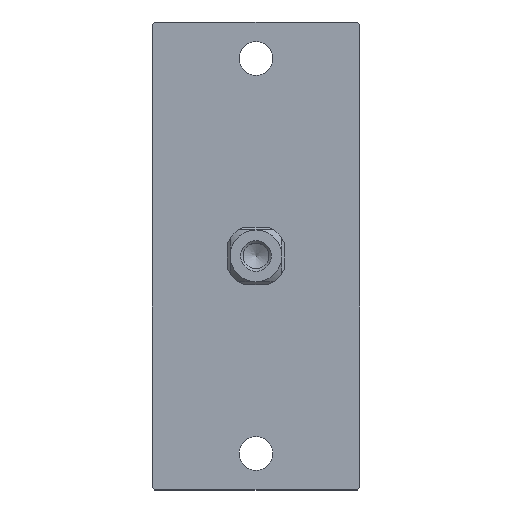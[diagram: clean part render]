
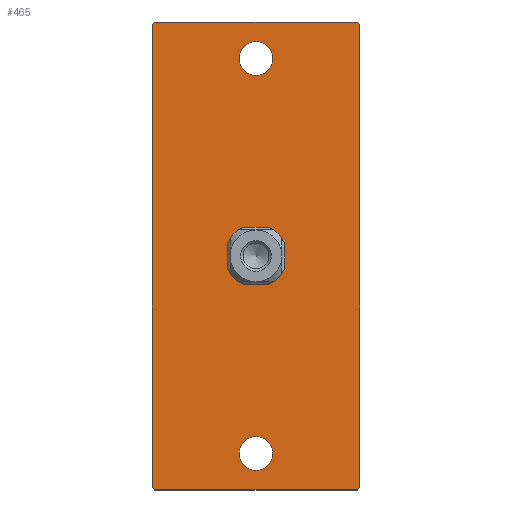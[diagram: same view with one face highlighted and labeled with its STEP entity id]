
A CAD part, top view. The second image highlights one B-rep face of the part: STEP entity #465.
In plain terms, the highlighted planar face has unit normal (0, 0, 1).
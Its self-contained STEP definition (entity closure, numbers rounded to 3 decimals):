
#198=CARTESIAN_POINT('',(-11.483,45.0,16.0));
#199=VERTEX_POINT('',#198);
#206=CARTESIAN_POINT('',(27.517,45.0,16.0));
#207=VERTEX_POINT('',#206);
#208=CARTESIAN_POINT('',(-11.483,45.0,16.0));
#209=DIRECTION('',(1.0,0.0,0.0));
#210=VECTOR('',#209,39.0);
#211=LINE('',#208,#210);
#212=EDGE_CURVE('',#199,#207,#211,.T.);
#245=CARTESIAN_POINT('',(-11.983,44.5,16.0));
#246=VERTEX_POINT('',#245);
#253=CARTESIAN_POINT('',(-11.983,44.5,16.0));
#254=DIRECTION('',(0.707,0.707,0.0));
#255=VECTOR('',#254,0.707);
#256=LINE('',#253,#255);
#257=EDGE_CURVE('',#246,#199,#256,.T.);
#269=CARTESIAN_POINT('',(27.517,-45.0,16.0));
#270=VERTEX_POINT('',#269);
#277=CARTESIAN_POINT('',(-11.483,-45.0,16.0));
#278=VERTEX_POINT('',#277);
#279=CARTESIAN_POINT('',(27.517,-45.0,16.0));
#280=DIRECTION('',(-1.0,0.0,0.0));
#281=VECTOR('',#280,39.0);
#282=LINE('',#279,#281);
#283=EDGE_CURVE('',#270,#278,#282,.T.);
#316=CARTESIAN_POINT('',(28.017,-44.5,16.0));
#317=VERTEX_POINT('',#316);
#324=CARTESIAN_POINT('',(28.017,-44.5,16.0));
#325=DIRECTION('',(-0.707,-0.707,0.0));
#326=VECTOR('',#325,0.707);
#327=LINE('',#324,#326);
#328=EDGE_CURVE('',#317,#270,#327,.T.);
#334=CARTESIAN_POINT('',(8.017,0.,16.0));
#335=DIRECTION('',(0.0,0.0,1.0));
#336=DIRECTION('',(1.0,0.0,0.0));
#337=AXIS2_PLACEMENT_3D('',#334,#335,#336);
#338=PLANE('',#337);
#339=ORIENTED_EDGE('',*,*,#257,.F.);
#340=CARTESIAN_POINT('',(-11.983,-44.5,16.0));
#341=VERTEX_POINT('',#340);
#342=CARTESIAN_POINT('',(-11.983,-44.5,16.0));
#343=DIRECTION('',(0.0,1.0,0.0));
#344=VECTOR('',#343,89.0);
#345=LINE('',#342,#344);
#346=EDGE_CURVE('',#341,#246,#345,.T.);
#347=ORIENTED_EDGE('',*,*,#346,.F.);
#348=CARTESIAN_POINT('',(-11.483,-45.0,16.0));
#349=DIRECTION('',(-0.707,0.707,0.0));
#350=VECTOR('',#349,0.707);
#351=LINE('',#348,#350);
#352=EDGE_CURVE('',#278,#341,#351,.T.);
#353=ORIENTED_EDGE('',*,*,#352,.F.);
#354=ORIENTED_EDGE('',*,*,#283,.F.);
#355=ORIENTED_EDGE('',*,*,#328,.F.);
#356=CARTESIAN_POINT('',(28.017,44.5,16.0));
#357=VERTEX_POINT('',#356);
#358=CARTESIAN_POINT('',(28.017,44.5,16.0));
#359=DIRECTION('',(0.0,-1.0,0.0));
#360=VECTOR('',#359,89.0);
#361=LINE('',#358,#360);
#362=EDGE_CURVE('',#357,#317,#361,.T.);
#363=ORIENTED_EDGE('',*,*,#362,.F.);
#364=CARTESIAN_POINT('',(27.517,45.0,16.0));
#365=DIRECTION('',(0.707,-0.707,0.0));
#366=VECTOR('',#365,0.707);
#367=LINE('',#364,#366);
#368=EDGE_CURVE('',#207,#357,#367,.T.);
#369=ORIENTED_EDGE('',*,*,#368,.F.);
#370=ORIENTED_EDGE('',*,*,#212,.F.);
#371=EDGE_LOOP('',(#339,#347,#353,#354,#355,#363,#369,#370));
#372=FACE_OUTER_BOUND('',#371,.T.);
#373=CARTESIAN_POINT('',(10.415,5.5,16.));
#374=VERTEX_POINT('',#373);
#375=CARTESIAN_POINT('',(13.517,2.398,16.));
#376=VERTEX_POINT('',#375);
#377=CARTESIAN_POINT('',(8.017,0.0,16.0));
#378=DIRECTION('',(0.0,0.0,-1.0));
#379=DIRECTION('',(0.0,1.0,0.0));
#380=AXIS2_PLACEMENT_3D('',#377,#378,#379);
#381=CIRCLE('',#380,6.);
#382=EDGE_CURVE('',#374,#376,#381,.T.);
#383=ORIENTED_EDGE('',*,*,#382,.T.);
#384=CARTESIAN_POINT('',(13.517,-2.398,16.));
#385=VERTEX_POINT('',#384);
#386=CARTESIAN_POINT('',(13.517,-2.398,16.));
#387=DIRECTION('',(0.0,1.0,0.0));
#388=VECTOR('',#387,4.796);
#389=LINE('',#386,#388);
#390=EDGE_CURVE('',#385,#376,#389,.T.);
#391=ORIENTED_EDGE('',*,*,#390,.F.);
#392=CARTESIAN_POINT('',(10.415,-5.5,16.));
#393=VERTEX_POINT('',#392);
#394=CARTESIAN_POINT('',(8.017,0.0,16.0));
#395=DIRECTION('',(0.0,0.0,-1.0));
#396=DIRECTION('',(0.0,1.0,0.0));
#397=AXIS2_PLACEMENT_3D('',#394,#395,#396);
#398=CIRCLE('',#397,6.);
#399=EDGE_CURVE('',#385,#393,#398,.T.);
#400=ORIENTED_EDGE('',*,*,#399,.T.);
#401=CARTESIAN_POINT('',(5.619,-5.5,16.));
#402=VERTEX_POINT('',#401);
#403=CARTESIAN_POINT('',(5.619,-5.5,16.));
#404=DIRECTION('',(1.0,0.0,0.0));
#405=VECTOR('',#404,4.796);
#406=LINE('',#403,#405);
#407=EDGE_CURVE('',#402,#393,#406,.T.);
#408=ORIENTED_EDGE('',*,*,#407,.F.);
#409=CARTESIAN_POINT('',(2.517,-2.398,16.));
#410=VERTEX_POINT('',#409);
#411=CARTESIAN_POINT('',(8.017,0.0,16.0));
#412=DIRECTION('',(0.0,0.0,-1.0));
#413=DIRECTION('',(0.0,1.0,0.0));
#414=AXIS2_PLACEMENT_3D('',#411,#412,#413);
#415=CIRCLE('',#414,6.);
#416=EDGE_CURVE('',#402,#410,#415,.T.);
#417=ORIENTED_EDGE('',*,*,#416,.T.);
#418=CARTESIAN_POINT('',(2.517,2.398,16.));
#419=VERTEX_POINT('',#418);
#420=CARTESIAN_POINT('',(2.517,2.398,16.));
#421=DIRECTION('',(0.0,-1.0,0.0));
#422=VECTOR('',#421,4.796);
#423=LINE('',#420,#422);
#424=EDGE_CURVE('',#419,#410,#423,.T.);
#425=ORIENTED_EDGE('',*,*,#424,.F.);
#426=CARTESIAN_POINT('',(5.619,5.5,16.));
#427=VERTEX_POINT('',#426);
#428=CARTESIAN_POINT('',(8.017,0.0,16.0));
#429=DIRECTION('',(0.0,0.0,-1.0));
#430=DIRECTION('',(0.0,1.0,0.0));
#431=AXIS2_PLACEMENT_3D('',#428,#429,#430);
#432=CIRCLE('',#431,6.);
#433=EDGE_CURVE('',#419,#427,#432,.T.);
#434=ORIENTED_EDGE('',*,*,#433,.T.);
#435=CARTESIAN_POINT('',(10.415,5.5,16.));
#436=DIRECTION('',(-1.0,0.0,0.0));
#437=VECTOR('',#436,4.796);
#438=LINE('',#435,#437);
#439=EDGE_CURVE('',#374,#427,#438,.T.);
#440=ORIENTED_EDGE('',*,*,#439,.F.);
#441=EDGE_LOOP('',(#383,#391,#400,#408,#417,#425,#434,#440));
#442=FACE_BOUND('',#441,.T.);
#443=CARTESIAN_POINT('',(11.267,-38.0,16.0));
#444=VERTEX_POINT('',#443);
#445=CARTESIAN_POINT('',(8.017,-38.0,16.0));
#446=DIRECTION('',(0.0,0.0,-1.0));
#447=DIRECTION('',(-1.0,0.0,0.0));
#448=AXIS2_PLACEMENT_3D('',#445,#446,#447);
#449=CIRCLE('',#448,3.25);
#450=EDGE_CURVE('',#444,#444,#449,.T.);
#451=ORIENTED_EDGE('',*,*,#450,.T.);
#452=EDGE_LOOP('',(#451));
#453=FACE_BOUND('',#452,.T.);
#454=CARTESIAN_POINT('',(11.267,38.0,16.0));
#455=VERTEX_POINT('',#454);
#456=CARTESIAN_POINT('',(8.017,38.0,16.0));
#457=DIRECTION('',(0.0,0.0,-1.0));
#458=DIRECTION('',(-1.0,0.0,0.0));
#459=AXIS2_PLACEMENT_3D('',#456,#457,#458);
#460=CIRCLE('',#459,3.25);
#461=EDGE_CURVE('',#455,#455,#460,.T.);
#462=ORIENTED_EDGE('',*,*,#461,.T.);
#463=EDGE_LOOP('',(#462));
#464=FACE_BOUND('',#463,.T.);
#465=ADVANCED_FACE('',(#372,#442,#453,#464),#338,.T.);
